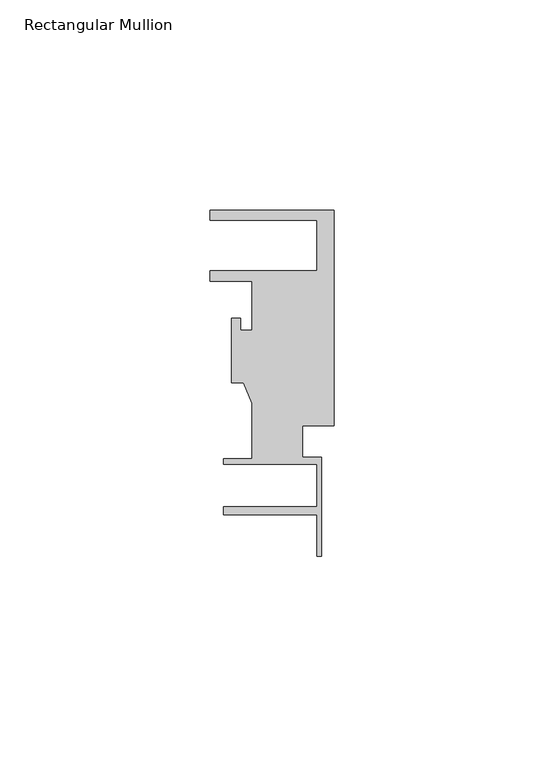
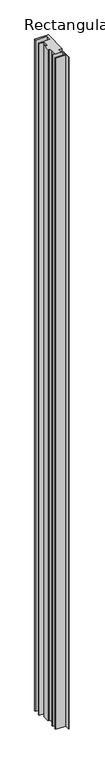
"""IFC4 building model written with IfcOpenShell, lengths in millimetres: member geometry, Rectangular Mullion : Danpal Rigth Mullion."""

from ifc_helpers import new_model, si_unit, frame, origin, place, context, project, spatial, polyline, outline, extrude, source, transform, mapped, element, save


def rectangular_mullion_2972fc2d(model_context):
    return source(origin(), model_context, "Body", "SweptSolid", [
        extrude(outline(polyline([(-29.3898666, 82.2567483), (0.0, 82.2567483), (0.0, 31.0322991), (-7.4437443, 31.0322991), (-7.4437443, 23.5472993), (-2.9228036, 23.5472993), (-2.9228036, 0.0), (-4.025332, 0.0), (-4.025332, 9.926765), (-26.1752343, 9.926765), (-26.1752343, 11.7860224), (-4.025332, 11.7860224), (-4.025332, 21.8972993), (-26.1752343, 21.8972993), (-26.1752343, 23.2472993), (-19.4516142, 23.2472993), (-19.4516142, 36.4037159), (-21.5132835, 41.2607044), (-24.3605597, 41.2607044), (-24.3605597, 56.6749017), (-22.2181882, 56.6749017), (-22.2181882, 53.8258193), (-19.453538, 53.8258193), (-19.453538, 65.4472993), (-29.3898666, 65.4472993), (-29.3898666, 67.8972993), (-4.037129, 67.8972993), (-4.037129, 79.8972993), (-29.3898666, 79.8972993), (-29.3898666, 82.2567483)])), frame((0.0, 0.0, -1533.3273158), z_axis=(0.0, 0.0, 1.0), x_axis=(1.0, 0.0, 0.0)), (0.0, 0.0, 1.0), 1533.3273158),
    ])


if __name__ == "__main__":
    model = new_model("IFC4")
    model_context = context("Model", 3, world=origin())
    ifc_project = project(units=[si_unit("LENGTHUNIT", "METRE", prefix="MILLI")], contexts=[model_context])
    site = spatial("IfcSite", under=ifc_project)
    building = spatial("IfcBuilding", under=site)
    placement = place(None, origin())
    rectangular_mullion_shape = rectangular_mullion_2972fc2d(model_context)
    element("IfcMember", 1, ObjectType="Rectangular Mullion : Danpal Rigth Mullion", at=placement, inside=building, context=model_context, shape_type="MappedRepresentation", body=[
        mapped(rectangular_mullion_shape, transform((0.0, 0.0, 0.0), x_axis=(1.0, 0.0, 0.0), y_axis=(0.0, 1.0, 0.0), z_axis=(0.0, 0.0, 1.0))),
    ])
    save(model, "model.ifc")
